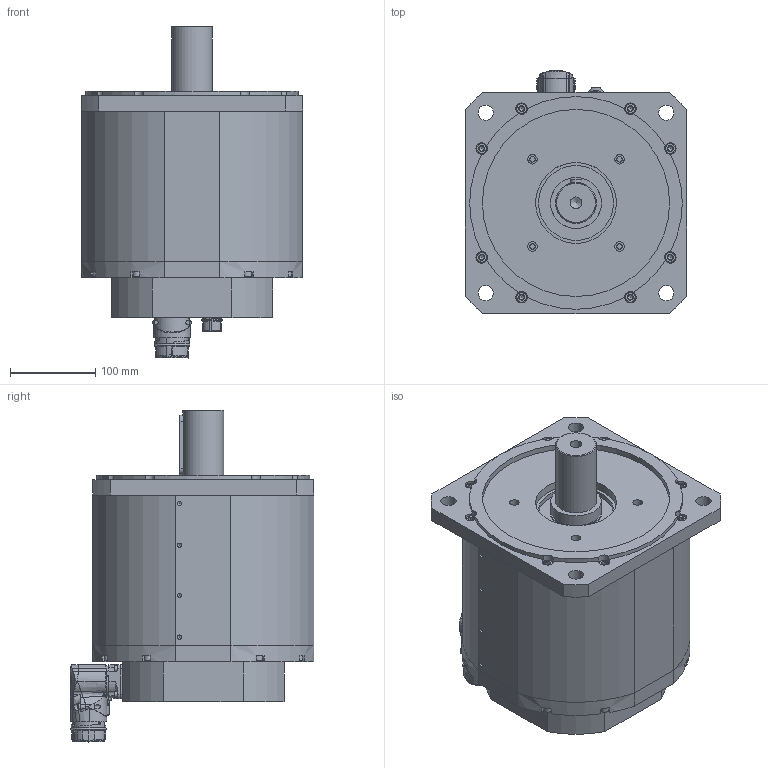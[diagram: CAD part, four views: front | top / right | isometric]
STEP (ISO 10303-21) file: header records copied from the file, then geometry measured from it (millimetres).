
FILE_DESCRIPTION(/* description */ (''),/* implementation_level */ '2;1');
FILE_NAME(/* name */ 'C:\Users\Public\Documents\Autodesk\Inventor LT 2014\Workspace\Motori Sito WEB\TG_7\NEW TG_7\DSM5_71_x099.stp',/* time_stamp */ '2021-10-28T15:00:50+02:00',/* author */ ('marcor'),/* organization */ (''),/* preprocessor_version */ 'ST-DEVELOPER v15.2',/* originating_system */ 'Autodesk Inventor LT ',/* authorisation */ '');
FILE_SCHEMA (('AUTOMOTIVE_DESIGN { 1 0 10303 214 3 1 1 }'));
Products named in the file (1): DSM5_71_x099
Bounding box: 260 x 286.55 x 390.4 mm (x, y, z)
Volume: 14308703.4 mm3; surface area: 806872 mm2
Topology: 25 solids, 34 shells, 1924 faces, 4984 edges, 3262 vertices
Faces by surface type: plane 836, cylinder 437, cone 394, bspline 137, torus 103, sphere 17
Full cylindrical faces by diameter (mm): 1.2 x12, 2 x2, 2.224 x4, 2.5 x4, 2.88 x4, 3.26 x4, 3.6 x5, 4 x5, 4.5 x1, 4.8 x4, 4.917 x24, 5.4 x1, 5.5 x1, 5.9 x1, 6 x12, 6.5 x24, 6.647 x8, 7 x4, 8 x11, 8.376 x2, 8.5 x9, 10 x12, 11 x16, 13 x8, 13.5 x8, 13.835 x1, 15.2 x1, 17.4 x2, 18 x5, 20 x1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
Entity records: 63569 total; most frequent: CARTESIAN_POINT 18909, ORIENTED_EDGE 8694, DIRECTION 8510, EDGE_CURVE 4347, AXIS2_PLACEMENT_3D 3381, VERTEX_POINT 3091, EDGE_LOOP 2620, ADVANCED_FACE 1924
